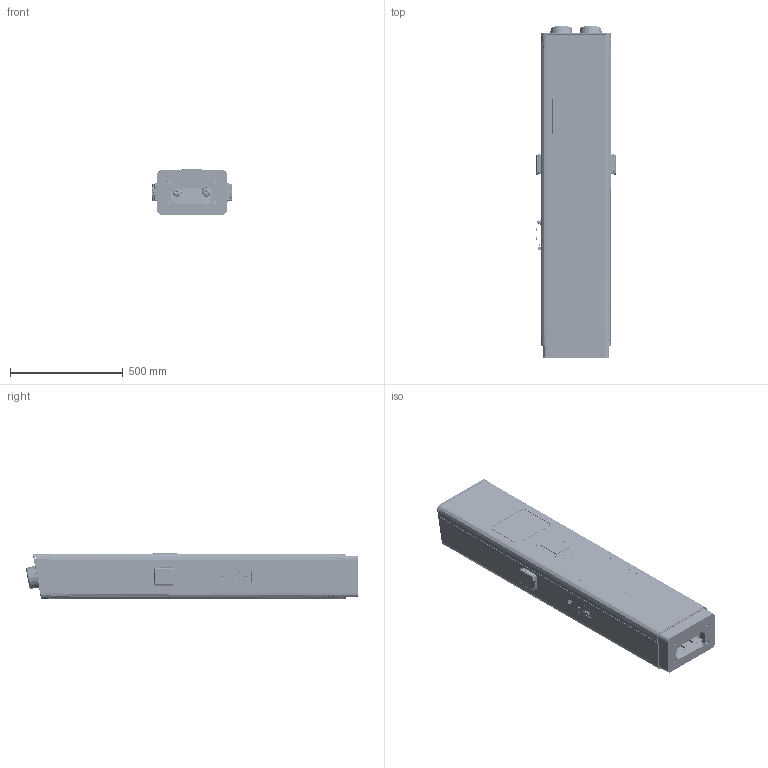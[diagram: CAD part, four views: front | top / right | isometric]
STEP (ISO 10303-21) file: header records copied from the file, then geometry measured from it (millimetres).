
FILE_DESCRIPTION((''),'2;1');
FILE_NAME('AUT41470442_ASM','2026-01-16T10:09:42',('A24651'),(''),'CREO PARAMETRIC BY PTC INC, 2018100','CREO PARAMETRIC BY PTC INC, 2018100','');
FILE_SCHEMA(('CONFIG_CONTROL_DESIGN','GEOMETRIC_VALIDATION_PROPERTIES_MIM'));
Products named in the file (126): AUT81170763; AUT81192721; AUT81192721_3; AUT81192721_4; AUT81471318; AUT81192721_ASM; AUT81192778; AUT81192721_6; AUT81181952_1; AUT81181952_3; AUT81181938_1; AUT61470742_ASM; 207-8273_00-000ZX_1_; AUT81217650; AUT81217651; AUT81217652; AUT81217616; CLS-M5-2; AUT81217616_ASM; AUT81250480; AUT81230635; GB896_D4; AUT61470776_ASM; AUT81217617; AUT81217617_ASM; AUT61470777_ASM; AUT81410621; AUT81471439; GB_T95_5_S; AUT81350830; AUT61471083_ASM; AUT81471340; AUT81217724; AUT81217724_ASM; AUT81370794; M5X10_GB29_2_ZN; D5_GB9074_26_ZN; D5_GB9074_24_ZN; GB9074_13_M5X10_ZN_ASM; GB9074_13_M5X20_ZN_1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
Assembly tree (216 placements, depth 7):
  AUT41470442_ASM
    AUT61471124_ASM
      AUT61180913_ASM
        AUT61470742_ASM
          AUT81170763
          AUT81192721_ASM
            AUT81192721
            AUT81192721_3
            AUT81192721_4
            AUT81471318  x2
          AUT81192778
          AUT81192721_6
          AUT81181952_1
          AUT81181952_3
          AUT81471318  x12
          AUT81181938_1
        AUT61471083_ASM
          207-8273_00-000ZX_1_
          AUT81217650
          AUT81217651
          AUT81217652  x2
          AUT61470776_ASM
            AUT81217616_ASM
              AUT81217616
              CLS-M5-2
            AUT81250480  x4
            AUT81230635  x2
            GB896_D4  x2
          AUT61470777_ASM
            AUT81217617_ASM
              AUT81217617
              CLS-M5-2
            AUT81250480  x2
            AUT81230635
            GB896_D4
          AUT81410621  x4
          AUT81471439  x4
          AUT81230635  x4
          GB896_D4  x4
          GB_T95_5_S  x2
          AUT81350830
        AUT81471340
        AUT81217724_ASM
          AUT81217724
          CLS-M5-2  x3
        AUT81370794
        GB9074_13_M5X10_ZN_ASM  x7
          M5X10_GB29_2_ZN
          D5_GB9074_26_ZN
          D5_GB9074_24_ZN
        GB9074_13_M5X20_ZN_ASM
          GB9074_13_M5X20_ZN_1
          D5_GB9074_26_ZN
          D5_GB9074_24_ZN
        AUT61471125_ASM
      AUT61200475_ASM
        AUT61200474_ASM
          AUT81170764
          AUT81200822_3
          AUT81471318  x8
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Bounding box: 352.04 x 1469.73 x 204 mm (x, y, z)
Volume: 14954711.4 mm3; surface area: 8380912.4 mm2
Topology: 314 solids, 314 shells, 17593 faces, 45890 edges, 29388 vertices
Faces by surface type: plane 11995, cylinder 3804, cone 1104, bspline 275, torus 233, extrusion 154, sphere 28
Entity records: 313037 total; most frequent: CARTESIAN_POINT 69281, ORIENTED_EDGE 44082, DIRECTION 42704, EDGE_CURVE 22041, VECTOR 15474, LINE 15357, VERTEX_POINT 14423, AXIS2_PLACEMENT_3D 13615
